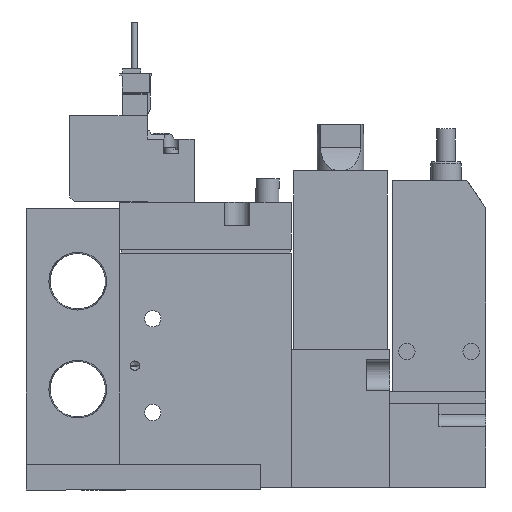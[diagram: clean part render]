
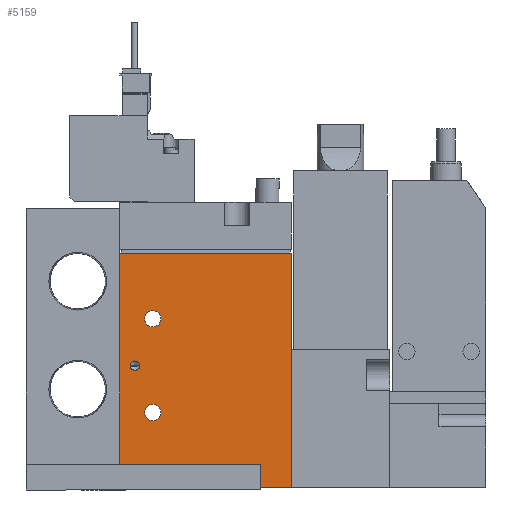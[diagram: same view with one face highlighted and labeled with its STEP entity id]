
A CAD part, left-side view. The second image highlights one B-rep face of the part: STEP entity #5159.
In plain terms, the highlighted planar face has unit normal (-1, 0, 0) as drawn and (1, 0, 0) by its records, which use the part's own axes.
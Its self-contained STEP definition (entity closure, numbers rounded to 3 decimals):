
#5159=ADVANCED_FACE('',(#7805,#7806,#7807,#7808),#7809,.F.);
#7805=FACE_BOUND('',#13802,.T.);
#7806=FACE_BOUND('',#13803,.T.);
#7807=FACE_BOUND('',#13804,.T.);
#7808=FACE_OUTER_BOUND('',#13805,.T.);
#7809=PLANE('',#13806);
#13802=EDGE_LOOP('',(#19897));
#13803=EDGE_LOOP('',(#19898));
#13804=EDGE_LOOP('',(#19899));
#13805=EDGE_LOOP('',(#19900,#19901,#19902,#19903));
#13806=AXIS2_PLACEMENT_3D('',#19904,#19905,#19906);
#19897=ORIENTED_EDGE('',*,*,#40404,.F.);
#19898=ORIENTED_EDGE('',*,*,#40405,.T.);
#19899=ORIENTED_EDGE('',*,*,#40406,.T.);
#19900=ORIENTED_EDGE('',*,*,#40407,.T.);
#19901=ORIENTED_EDGE('',*,*,#40408,.F.);
#19902=ORIENTED_EDGE('',*,*,#40409,.F.);
#19903=ORIENTED_EDGE('',*,*,#40410,.T.);
#19904=CARTESIAN_POINT('',(8.5,-19.444,50.0));
#19905=DIRECTION('',(-1.0,0.0,0.0));
#19906=DIRECTION('',(0.0,0.0,1.0));
#40404=EDGE_CURVE('',#46819,#46819,#46820,.T.);
#40405=EDGE_CURVE('',#46821,#46821,#46822,.T.);
#40406=EDGE_CURVE('',#46823,#46823,#46824,.T.);
#40407=EDGE_CURVE('',#46825,#46826,#46827,.T.);
#40408=EDGE_CURVE('',#46828,#46826,#46829,.T.);
#40409=EDGE_CURVE('',#46830,#46828,#46831,.T.);
#40410=EDGE_CURVE('',#46830,#46825,#46832,.T.);
#46819=VERTEX_POINT('',#57675);
#46820=CIRCLE('',#57676,1.0);
#46821=VERTEX_POINT('',#57677);
#46822=CIRCLE('',#57678,1.75);
#46823=VERTEX_POINT('',#57679);
#46824=CIRCLE('',#57680,1.75);
#46825=VERTEX_POINT('',#57681);
#46826=VERTEX_POINT('',#57682);
#46827=LINE('',#57683,#57684);
#46828=VERTEX_POINT('',#57685);
#46829=LINE('',#57686,#57687);
#46830=VERTEX_POINT('',#57688);
#46831=LINE('',#57689,#57690);
#46832=LINE('',#57691,#57692);
#57675=CARTESIAN_POINT('',(8.5,-17.244,26.0));
#57676=AXIS2_PLACEMENT_3D('',#73972,#73973,#73974);
#57677=CARTESIAN_POINT('',(8.5,-10.694,36.0));
#57678=AXIS2_PLACEMENT_3D('',#73975,#73976,#73977);
#57679=CARTESIAN_POINT('',(8.5,-10.694,16.0));
#57680=AXIS2_PLACEMENT_3D('',#73978,#73979,#73980);
#57681=CARTESIAN_POINT('',(8.5,-19.444,0.0));
#57682=CARTESIAN_POINT('',(8.5,17.056,0.0));
#57683=CARTESIAN_POINT('',(8.5,-19.444,0.0));
#57684=VECTOR('',#73981,1.0);
#57685=CARTESIAN_POINT('',(8.5,17.056,50.0));
#57686=CARTESIAN_POINT('',(8.5,17.056,50.0));
#57687=VECTOR('',#73982,1.0);
#57688=CARTESIAN_POINT('',(8.5,-19.444,50.0));
#57689=CARTESIAN_POINT('',(8.5,-19.444,50.0));
#57690=VECTOR('',#73983,1.0);
#57691=CARTESIAN_POINT('',(8.5,-19.444,50.0));
#57692=VECTOR('',#73984,1.0);
#73972=CARTESIAN_POINT('',(8.5,-16.244,26.0));
#73973=DIRECTION('',(1.0,0.,0.0));
#73974=DIRECTION('',(0.,-1.0,0.0));
#73975=CARTESIAN_POINT('',(8.5,-12.444,36.0));
#73976=DIRECTION('',(-1.0,0.0,0.0));
#73977=DIRECTION('',(0.0,1.0,0.0));
#73978=CARTESIAN_POINT('',(8.5,-12.444,16.0));
#73979=DIRECTION('',(-1.0,0.0,0.0));
#73980=DIRECTION('',(0.0,1.0,0.0));
#73981=DIRECTION('',(0.0,1.0,0.0));
#73982=DIRECTION('',(0.0,0.0,-1.0));
#73983=DIRECTION('',(0.0,1.0,0.0));
#73984=DIRECTION('',(0.0,0.0,-1.0));
